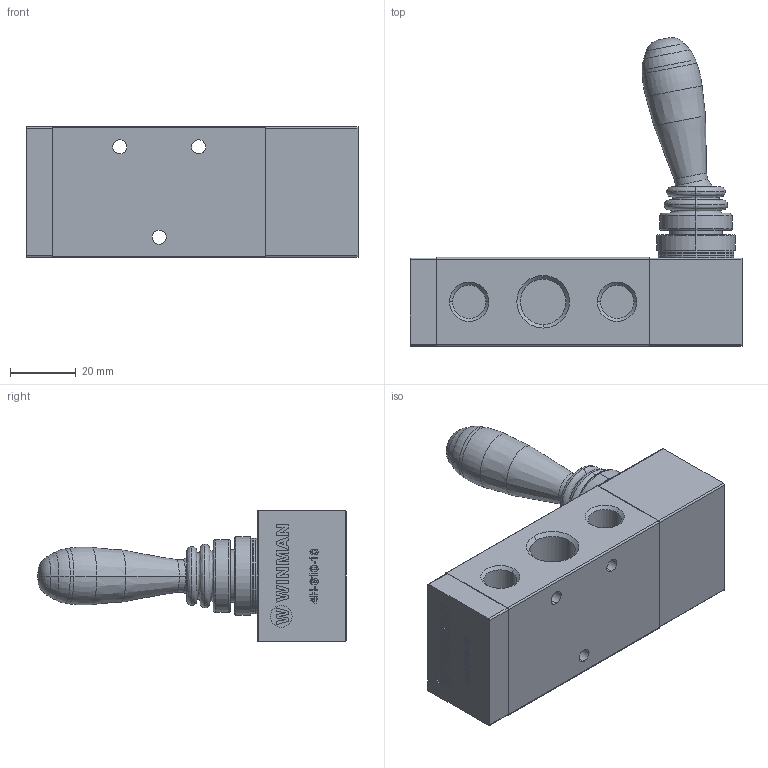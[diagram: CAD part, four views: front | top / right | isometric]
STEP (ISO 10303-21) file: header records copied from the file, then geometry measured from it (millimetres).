
FILE_DESCRIPTION (( 'STEP AP214' ), '1' );
FILE_NAME ('4HA-310-10(3D).STEP', '2020-08-31T08:17:33', ( '' ), ( '' ), 'SwSTEP 2.0', 'SolidWorks 2016', '' );
FILE_SCHEMA (( 'AUTOMOTIVE_DESIGN' ));
Length unit declared in the file: millimetre
Products named in the file (2): 4HA-310-10(3D); 4HA-310-10_body
Assembly tree (1 placements, depth 2):
  4HA-310-10(3D)
    4HA-310-10_body
Bounding box: 101 x 93.88 x 40 mm (x, y, z)
Volume: 114697.8 mm3; surface area: 22925.4 mm2
Topology: 1 solids, 1 shells, 322 faces, 806 edges, 522 vertices
Faces by surface type: plane 178, bspline 59, cylinder 45, cone 34, torus 6
Entity records: 14673 total; most frequent: CARTESIAN_POINT 4885, ORIENTED_EDGE 1612, DIRECTION 1391, EDGE_CURVE 806, VECTOR 541, LINE 541, VERTEX_POINT 522, AXIS2_PLACEMENT_3D 425
